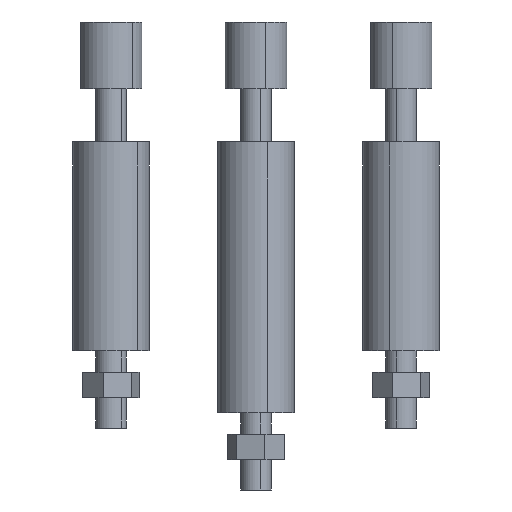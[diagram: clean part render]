
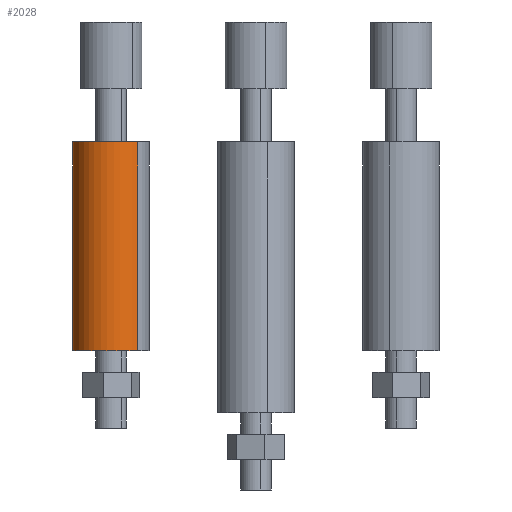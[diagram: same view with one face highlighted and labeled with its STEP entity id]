
A CAD part, front view. The second image highlights one B-rep face of the part: STEP entity #2028.
In plain terms, the highlighted cylindrical face has radius 9.9 mm (diameter 19.8 mm), a partial arc.
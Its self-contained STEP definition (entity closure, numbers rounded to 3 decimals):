
#32 = CYLINDRICAL_SURFACE ( 'NONE', #912, 9.9 ) ;
#288 = VECTOR ( 'NONE', #3330, 1000. ) ;
#554 = LINE ( 'NONE', #2168, #288 ) ;
#606 = EDGE_CURVE ( 'NONE', #2782, #5290, #4468, .T. ) ;
#912 = AXIS2_PLACEMENT_3D ( 'NONE', #4836, #7320, #6090 ) ;
#1074 = EDGE_CURVE ( 'NONE', #3242, #2782, #554, .T. ) ;
#1768 = CARTESIAN_POINT ( 'NONE',  ( -30.596, -83.595, 14.5 ) ) ;
#1807 = CARTESIAN_POINT ( 'NONE',  ( -30.596, -83.595, -39.5 ) ) ;
#1827 = ORIENTED_EDGE ( 'NONE', *, *, #3247, .F. ) ;
#1859 = LINE ( 'NONE', #6655, #6619 ) ;
#1910 = EDGE_LOOP ( 'NONE', ( #4333, #5674, #2618, #1827 ) ) ;
#2028 = ADVANCED_FACE ( 'NONE', ( #2941 ), #32, .T. ) ;
#2133 = AXIS2_PLACEMENT_3D ( 'NONE', #5927, #7159, #2969 ) ;
#2168 = CARTESIAN_POINT ( 'NONE',  ( -30.596, -83.595, -39.5 ) ) ;
#2618 = ORIENTED_EDGE ( 'NONE', *, *, #606, .T. ) ;
#2782 = VERTEX_POINT ( 'NONE', #1768 ) ;
#2941 = FACE_OUTER_BOUND ( 'NONE', #1910, .T. ) ;
#2969 = DIRECTION ( 'NONE',  ( 0.697, -0.717, 0. ) ) ;
#3136 = CIRCLE ( 'NONE', #2133, 9.9 ) ;
#3242 = VERTEX_POINT ( 'NONE', #1807 ) ;
#3247 = EDGE_CURVE ( 'NONE', #7015, #5290, #1859, .T. ) ;
#3310 = DIRECTION ( 'NONE',  ( 0., 0., -1. ) ) ;
#3327 = AXIS2_PLACEMENT_3D ( 'NONE', #5151, #3310, #5634 ) ;
#3330 = DIRECTION ( 'NONE',  ( 0., 0., 1. ) ) ;
#4333 = ORIENTED_EDGE ( 'NONE', *, *, #6685, .F. ) ;
#4468 = CIRCLE ( 'NONE', #3327, 9.9 ) ;
#4836 = CARTESIAN_POINT ( 'NONE',  ( -37.5, -76.5, -39.5 ) ) ;
#5151 = CARTESIAN_POINT ( 'NONE',  ( -37.5, -76.5, 14.5 ) ) ;
#5290 = VERTEX_POINT ( 'NONE', #5354 ) ;
#5354 = CARTESIAN_POINT ( 'NONE',  ( -44.404, -69.405, 14.5 ) ) ;
#5634 = DIRECTION ( 'NONE',  ( 0.697, -0.717, 0. ) ) ;
#5674 = ORIENTED_EDGE ( 'NONE', *, *, #1074, .T. ) ;
#5927 = CARTESIAN_POINT ( 'NONE',  ( -37.5, -76.5, -39.5 ) ) ;
#6090 = DIRECTION ( 'NONE',  ( -0.697, 0.717, 0. ) ) ;
#6556 = DIRECTION ( 'NONE',  ( 0., 0., 1. ) ) ;
#6619 = VECTOR ( 'NONE', #6556, 1000. ) ;
#6655 = CARTESIAN_POINT ( 'NONE',  ( -44.404, -69.405, -39.5 ) ) ;
#6685 = EDGE_CURVE ( 'NONE', #3242, #7015, #3136, .T. ) ;
#7015 = VERTEX_POINT ( 'NONE', #7582 ) ;
#7159 = DIRECTION ( 'NONE',  ( 0., 0., -1. ) ) ;
#7320 = DIRECTION ( 'NONE',  ( 0., 0., 1. ) ) ;
#7582 = CARTESIAN_POINT ( 'NONE',  ( -44.404, -69.405, -39.5 ) ) ;
